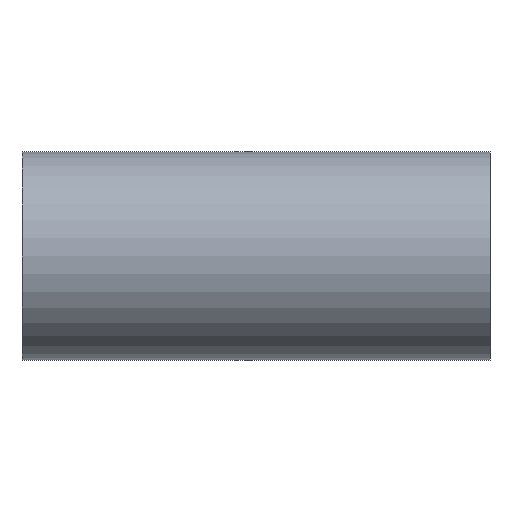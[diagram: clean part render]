
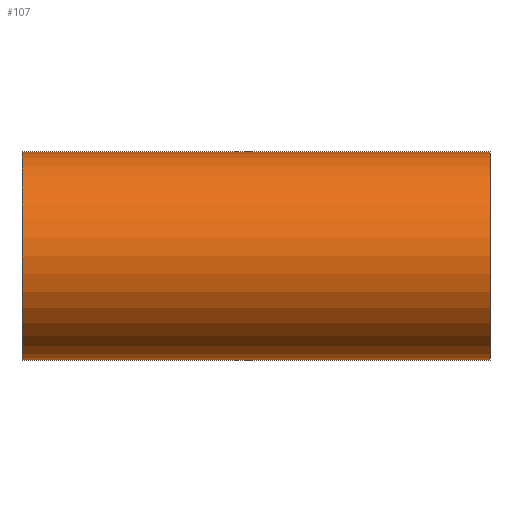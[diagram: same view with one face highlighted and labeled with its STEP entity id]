
A CAD part, front view. The second image highlights one B-rep face of the part: STEP entity #107.
In plain terms, the highlighted cylindrical face has radius 38.1 mm (diameter 76.2 mm), a partial arc.
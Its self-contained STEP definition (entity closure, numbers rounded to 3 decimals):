
#107 = ADVANCED_FACE ( 'NONE', ( #693 ), #983, .T. ) ;
#291 = CIRCLE ( 'NONE', #627, 38.1 ) ;
#332 = CARTESIAN_POINT ( 'NONE',  ( 85.7, 0., 38.1 ) ) ;
#346 = CARTESIAN_POINT ( 'NONE',  ( 85.7, 0., -38.1 ) ) ;
#379 = CIRCLE ( 'NONE', #1193, 38.1 ) ;
#396 = ORIENTED_EDGE ( 'NONE', *, *, #1197, .T. ) ;
#406 = ORIENTED_EDGE ( 'NONE', *, *, #980, .T. ) ;
#469 = CARTESIAN_POINT ( 'NONE',  ( -85.7, 0., 38.1 ) ) ;
#562 = EDGE_CURVE ( 'NONE', #987, #670, #379, .T. ) ;
#583 = EDGE_LOOP ( 'NONE', ( #956, #406, #396, #1592 ) ) ;
#606 = DIRECTION ( 'NONE',  ( 1., 0., 0. ) ) ;
#627 = AXIS2_PLACEMENT_3D ( 'NONE', #1431, #606, #937 ) ;
#670 = VERTEX_POINT ( 'NONE', #332 ) ;
#693 = FACE_OUTER_BOUND ( 'NONE', #583, .T. ) ;
#850 = DIRECTION ( 'NONE',  ( 1., 0., 0. ) ) ;
#861 = CARTESIAN_POINT ( 'NONE',  ( -85.7, 0., -38.1 ) ) ;
#890 = DIRECTION ( 'NONE',  ( 0., 0., -1. ) ) ;
#937 = DIRECTION ( 'NONE',  ( 0., 0., -1. ) ) ;
#956 = ORIENTED_EDGE ( 'NONE', *, *, #1185, .F. ) ;
#980 = EDGE_CURVE ( 'NONE', #1178, #1631, #291, .T. ) ;
#983 = CYLINDRICAL_SURFACE ( 'NONE', #1530, 38.1 ) ;
#987 = VERTEX_POINT ( 'NONE', #346 ) ;
#1025 = VECTOR ( 'NONE', #1855, 1000. ) ;
#1058 = VECTOR ( 'NONE', #850, 1000. ) ;
#1178 = VERTEX_POINT ( 'NONE', #1850 ) ;
#1185 = EDGE_CURVE ( 'NONE', #1178, #670, #1396, .T. ) ;
#1193 = AXIS2_PLACEMENT_3D ( 'NONE', #1449, #1460, #1463 ) ;
#1197 = EDGE_CURVE ( 'NONE', #1631, #987, #1743, .T. ) ;
#1396 = LINE ( 'NONE', #469, #1025 ) ;
#1431 = CARTESIAN_POINT ( 'NONE',  ( -85.7, 0., 0. ) ) ;
#1449 = CARTESIAN_POINT ( 'NONE',  ( 85.7, 0., 0. ) ) ;
#1460 = DIRECTION ( 'NONE',  ( -1., 0., 0. ) ) ;
#1463 = DIRECTION ( 'NONE',  ( 0., 0., -1. ) ) ;
#1530 = AXIS2_PLACEMENT_3D ( 'NONE', #1667, #1656, #890 ) ;
#1592 = ORIENTED_EDGE ( 'NONE', *, *, #562, .T. ) ;
#1631 = VERTEX_POINT ( 'NONE', #861 ) ;
#1656 = DIRECTION ( 'NONE',  ( 1., 0., 0. ) ) ;
#1667 = CARTESIAN_POINT ( 'NONE',  ( -85.7, 0., 0. ) ) ;
#1700 = CARTESIAN_POINT ( 'NONE',  ( -85.7, 0., -38.1 ) ) ;
#1743 = LINE ( 'NONE', #1700, #1058 ) ;
#1850 = CARTESIAN_POINT ( 'NONE',  ( -85.7, 0., 38.1 ) ) ;
#1855 = DIRECTION ( 'NONE',  ( 1., 0., 0. ) ) ;
